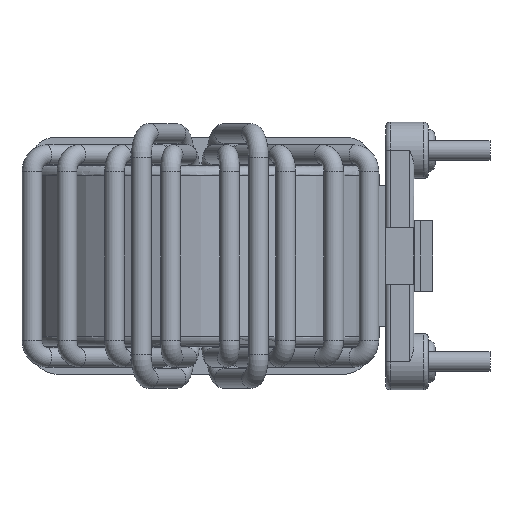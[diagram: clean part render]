
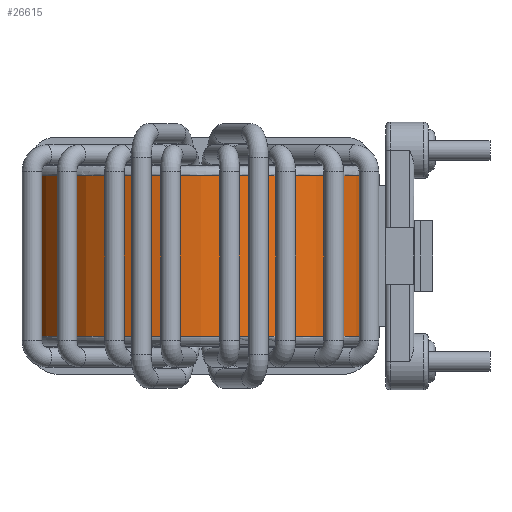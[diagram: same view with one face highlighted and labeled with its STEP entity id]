
A CAD part, left-side view. The second image highlights one B-rep face of the part: STEP entity #26615.
In plain terms, the highlighted cylindrical face has radius 12.7 mm (diameter 25.4 mm), a full revolution.
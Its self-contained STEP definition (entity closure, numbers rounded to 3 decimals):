
#174=FACE_BOUND('',#7745,.T.);
#175=FACE_BOUND('',#7746,.T.);
#2943=LINE('',#46705,#4861);
#2944=LINE('',#46707,#4862);
#2945=LINE('',#46708,#4863);
#2946=LINE('',#46709,#4864);
#2947=LINE('',#46710,#4865);
#4861=VECTOR('',#32622,12.7);
#4862=VECTOR('',#32625,10.);
#4863=VECTOR('',#32626,10.);
#4864=VECTOR('',#32627,10.);
#4865=VECTOR('',#32628,10.);
#5097=CYLINDRICAL_SURFACE('',#27955,12.7);
#6288=FACE_OUTER_BOUND('',#7744,.T.);
#7744=EDGE_LOOP('',(#22286,#22287,#22288,#22289,#22290));
#7745=EDGE_LOOP('',(#22291,#22292,#22293,#22294));
#7746=EDGE_LOOP('',(#22295,#22296,#22297,#22298));
#9276=CIRCLE('',#27683,12.7);
#9338=CIRCLE('',#27921,12.7);
#9342=CIRCLE('',#27926,12.7);
#9344=CIRCLE('',#27929,12.7);
#9348=CIRCLE('',#27934,12.7);
#9355=CIRCLE('',#27956,12.7);
#9356=CIRCLE('',#27957,12.7);
#11311=VERTEX_POINT('',#42731);
#11900=VERTEX_POINT('',#46579);
#11901=VERTEX_POINT('',#46580);
#11905=VERTEX_POINT('',#46591);
#11906=VERTEX_POINT('',#46593);
#11908=VERTEX_POINT('',#46599);
#11909=VERTEX_POINT('',#46600);
#11913=VERTEX_POINT('',#46611);
#11914=VERTEX_POINT('',#46613);
#11944=VERTEX_POINT('',#46702);
#11945=VERTEX_POINT('',#46703);
#14555=EDGE_CURVE('',#11311,#11311,#9276,.T.);
#15458=EDGE_CURVE('',#11900,#11901,#9338,.T.);
#15465=EDGE_CURVE('',#11906,#11905,#9342,.T.);
#15468=EDGE_CURVE('',#11908,#11909,#9344,.T.);
#15475=EDGE_CURVE('',#11914,#11913,#9348,.T.);
#15519=EDGE_CURVE('',#11944,#11945,#9355,.T.);
#15520=EDGE_CURVE('',#11944,#11311,#2943,.T.);
#15521=EDGE_CURVE('',#11945,#11944,#9356,.T.);
#15522=EDGE_CURVE('',#11900,#11905,#2944,.T.);
#15523=EDGE_CURVE('',#11906,#11901,#2945,.T.);
#15524=EDGE_CURVE('',#11914,#11909,#2946,.T.);
#15525=EDGE_CURVE('',#11908,#11913,#2947,.T.);
#22286=ORIENTED_EDGE('',*,*,#15519,.F.);
#22287=ORIENTED_EDGE('',*,*,#15520,.T.);
#22288=ORIENTED_EDGE('',*,*,#14555,.F.);
#22289=ORIENTED_EDGE('',*,*,#15520,.F.);
#22290=ORIENTED_EDGE('',*,*,#15521,.F.);
#22291=ORIENTED_EDGE('',*,*,#15465,.T.);
#22292=ORIENTED_EDGE('',*,*,#15522,.F.);
#22293=ORIENTED_EDGE('',*,*,#15458,.T.);
#22294=ORIENTED_EDGE('',*,*,#15523,.F.);
#22295=ORIENTED_EDGE('',*,*,#15468,.T.);
#22296=ORIENTED_EDGE('',*,*,#15524,.F.);
#22297=ORIENTED_EDGE('',*,*,#15475,.T.);
#22298=ORIENTED_EDGE('',*,*,#15525,.F.);
#26615=ADVANCED_FACE('',(#6288,#174,#175),#5097,.T.);
#27683=AXIS2_PLACEMENT_3D('',#42732,#31507,#31508);
#27921=AXIS2_PLACEMENT_3D('',#46581,#32506,#32507);
#27926=AXIS2_PLACEMENT_3D('',#46594,#32519,#32520);
#27929=AXIS2_PLACEMENT_3D('',#46601,#32526,#32527);
#27934=AXIS2_PLACEMENT_3D('',#46614,#32539,#32540);
#27955=AXIS2_PLACEMENT_3D('',#46701,#32618,#32619);
#27956=AXIS2_PLACEMENT_3D('',#46704,#32620,#32621);
#27957=AXIS2_PLACEMENT_3D('',#46706,#32623,#32624);
#31507=DIRECTION('center_axis',(0.,0.,
-1.));
#31508=DIRECTION('ref_axis',(1.,0.,0.));
#32506=DIRECTION('center_axis',(0.,0.,
-1.));
#32507=DIRECTION('ref_axis',(1.,0.,0.));
#32519=DIRECTION('center_axis',(0.,0.,
1.));
#32520=DIRECTION('ref_axis',(1.,0.,0.));
#32526=DIRECTION('center_axis',(0.,0.,
-1.));
#32527=DIRECTION('ref_axis',(1.,0.,0.));
#32539=DIRECTION('center_axis',(0.,0.,
1.));
#32540=DIRECTION('ref_axis',(1.,0.,0.));
#32618=DIRECTION('center_axis',(0.,0.,
1.));
#32619=DIRECTION('ref_axis',(1.,0.,0.));
#32620=DIRECTION('center_axis',(0.,0.,
1.));
#32621=DIRECTION('ref_axis',(1.,0.,0.));
#32622=DIRECTION('',(0.,0.,-1.));
#32623=DIRECTION('center_axis',(0.,0.,
1.));
#32624=DIRECTION('ref_axis',(1.,0.,0.));
#32625=DIRECTION('',(0.,0.,1.));
#32626=DIRECTION('',(0.,0.,-1.));
#32627=DIRECTION('',(0.,0.,-1.));
#32628=DIRECTION('',(0.,0.,1.));
#42731=CARTESIAN_POINT('',(-12.7,15.15,-5.7));
#42732=CARTESIAN_POINT('Origin',(0.,15.15,-5.7));
#46579=CARTESIAN_POINT('',(4.811,3.396,-5.));
#46580=CARTESIAN_POINT('',(2.886,2.782,-5.));
#46581=CARTESIAN_POINT('Origin',(0.,15.15,-5.));
#46591=CARTESIAN_POINT('',(4.811,3.396,5.));
#46593=CARTESIAN_POINT('',(2.886,2.782,5.));
#46594=CARTESIAN_POINT('Origin',(0.,15.15,5.));
#46599=CARTESIAN_POINT('',(-2.886,2.782,-5.));
#46600=CARTESIAN_POINT('',(-4.811,3.396,-5.));
#46601=CARTESIAN_POINT('Origin',(0.,15.15,-5.));
#46611=CARTESIAN_POINT('',(-2.886,2.782,5.));
#46613=CARTESIAN_POINT('',(-4.811,3.396,5.));
#46614=CARTESIAN_POINT('Origin',(0.,15.15,5.));
#46701=CARTESIAN_POINT('Origin',(0.,15.15,-5.2));
#46702=CARTESIAN_POINT('',(-12.7,15.15,5.7));
#46703=CARTESIAN_POINT('',(12.7,15.15,5.7));
#46704=CARTESIAN_POINT('Origin',(0.,15.15,5.7));
#46705=CARTESIAN_POINT('',(-12.7,15.15,-5.2));
#46706=CARTESIAN_POINT('Origin',(0.,15.15,5.7));
#46707=CARTESIAN_POINT('',(4.811,3.396,-5.2));
#46708=CARTESIAN_POINT('',(2.886,2.782,-5.2));
#46709=CARTESIAN_POINT('',(-4.811,3.396,-5.2));
#46710=CARTESIAN_POINT('',(-2.886,2.782,-5.2));
